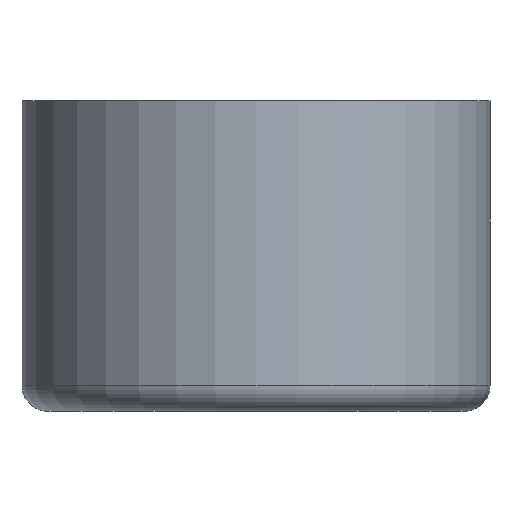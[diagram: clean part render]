
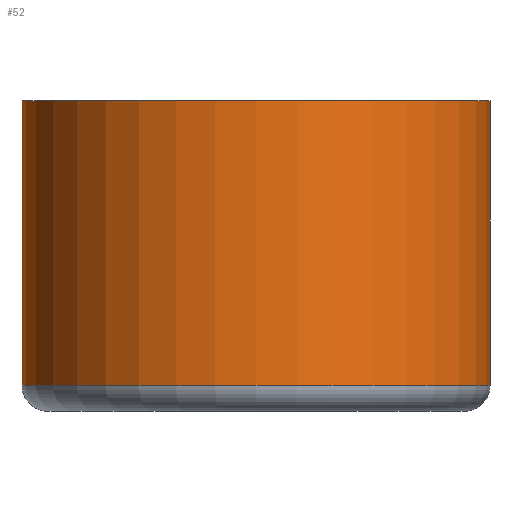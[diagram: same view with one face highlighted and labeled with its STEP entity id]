
A CAD part, front view. The second image highlights one B-rep face of the part: STEP entity #52.
In plain terms, the highlighted cylindrical face has radius 45.2 mm (diameter 90.4 mm), a partial arc.
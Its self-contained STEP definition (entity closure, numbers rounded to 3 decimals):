
#40 = EDGE_CURVE ( 'NONE', #62, #138, #185, .T. ) ;
#42 = EDGE_CURVE ( 'NONE', #62, #172, #113, .T. ) ;
#43 = EDGE_CURVE ( 'NONE', #138, #176, #94, .T. ) ;
#50 = EDGE_CURVE ( 'NONE', #172, #176, #211, .T. ) ;
#52 = ADVANCED_FACE ( 'NONE', ( #223 ), #229, .T. ) ;
#62 = VERTEX_POINT ( 'NONE', #261 ) ;
#65 = EDGE_LOOP ( 'NONE', ( #147, #149, #150, #151 ) ) ;
#94 = CIRCLE ( 'NONE', #97, 45.2 ) ;
#96 = AXIS2_PLACEMENT_3D ( 'NONE', #194, #195, #196 ) ;
#97 = AXIS2_PLACEMENT_3D ( 'NONE', #197, #198, #199 ) ;
#103 = VECTOR ( 'NONE', #222, 1000. ) ;
#112 = VECTOR ( 'NONE', #193, 1000. ) ;
#113 = CIRCLE ( 'NONE', #96, 45.2 ) ;
#114 = AXIS2_PLACEMENT_3D ( 'NONE', #227, #221, #230 ) ;
#138 = VERTEX_POINT ( 'NONE', #269 ) ;
#147 = ORIENTED_EDGE ( 'NONE', *, *, #50, .F. ) ;
#149 = ORIENTED_EDGE ( 'NONE', *, *, #42, .F. ) ;
#150 = ORIENTED_EDGE ( 'NONE', *, *, #40, .T. ) ;
#151 = ORIENTED_EDGE ( 'NONE', *, *, #43, .T. ) ;
#172 = VERTEX_POINT ( 'NONE', #266 ) ;
#176 = VERTEX_POINT ( 'NONE', #274 ) ;
#185 = LINE ( 'NONE', #192, #112 ) ;
#192 = CARTESIAN_POINT ( 'NONE',  ( -45.2, 0., 60. ) ) ;
#193 = DIRECTION ( 'NONE',  ( 0., 0., -1. ) ) ;
#194 = CARTESIAN_POINT ( 'NONE',  ( 0., 0., 60. ) ) ;
#195 = DIRECTION ( 'NONE',  ( 0., 0., 1. ) ) ;
#196 = DIRECTION ( 'NONE',  ( 1., 0., 0. ) ) ;
#197 = CARTESIAN_POINT ( 'NONE',  ( 0., 0., 5. ) ) ;
#198 = DIRECTION ( 'NONE',  ( 0., 0., 1. ) ) ;
#199 = DIRECTION ( 'NONE',  ( 1., 0., 0. ) ) ;
#211 = LINE ( 'NONE', #212, #103 ) ;
#212 = CARTESIAN_POINT ( 'NONE',  ( 45.2, 0., 60. ) ) ;
#221 = DIRECTION ( 'NONE',  ( 0., 0., -1. ) ) ;
#222 = DIRECTION ( 'NONE',  ( 0., 0., -1. ) ) ;
#223 = FACE_OUTER_BOUND ( 'NONE', #65, .T. ) ;
#227 = CARTESIAN_POINT ( 'NONE',  ( 0., 0., 60. ) ) ;
#229 = CYLINDRICAL_SURFACE ( 'NONE', #114, 45.2 ) ;
#230 = DIRECTION ( 'NONE',  ( -1., 0., 0. ) ) ;
#261 = CARTESIAN_POINT ( 'NONE',  ( -45.2, 0., 60. ) ) ;
#266 = CARTESIAN_POINT ( 'NONE',  ( 45.2, 0., 60. ) ) ;
#269 = CARTESIAN_POINT ( 'NONE',  ( -45.2, 0., 5. ) ) ;
#274 = CARTESIAN_POINT ( 'NONE',  ( 45.2, 0., 5. ) ) ;
